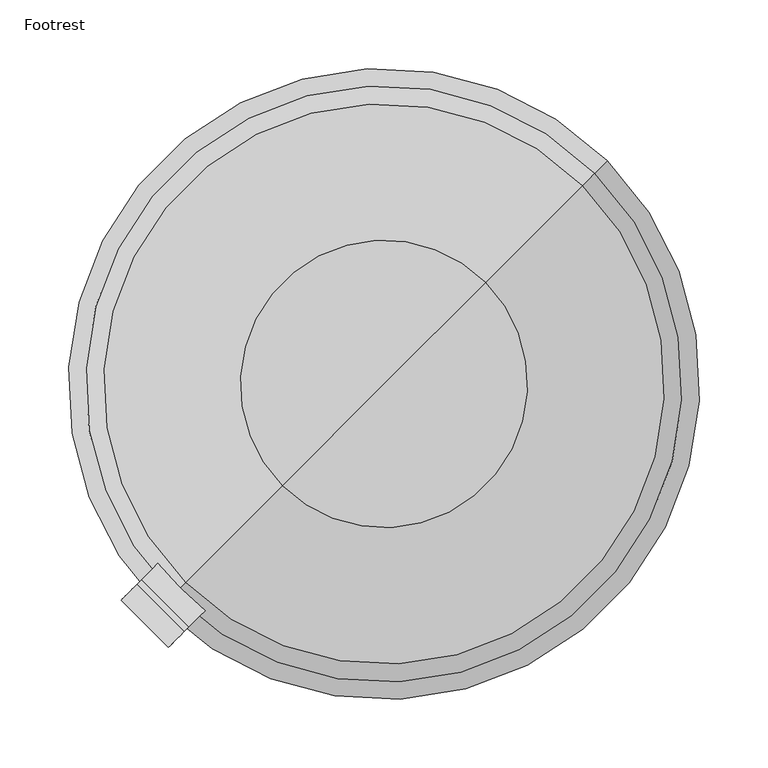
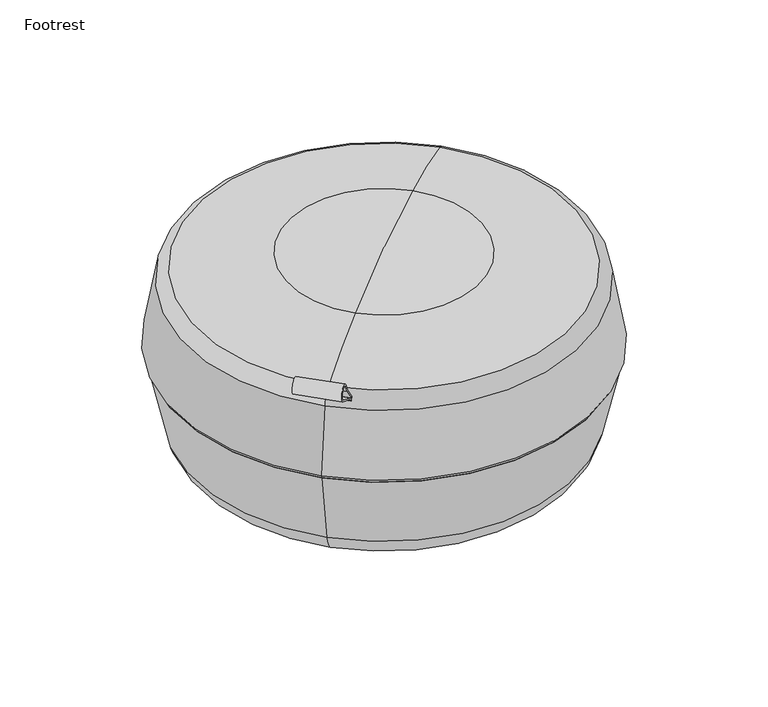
"""IFC4 building model written with IfcOpenShell, lengths in millimetres: furniture geometry, Steelcase EMEA - Seating - Brody - Footrest : Footrest."""

from ifc_helpers import new_model, si_unit, point, frame, frame_2d, origin, place, context, project, spatial, polyline, circle_curve, ellipse_curve, trimmed, segment, composite_curve, outline, extrude, source, transform, mapped, element, save
from ifc_brep_helpers import plane_surface, revolved_surface, advanced_brep


def footrest_3d02c9c8(model_context):
    return source(origin(), model_context, "Body", "SolidModel", [
        extrude(outline(composite_curve([segment(polyline([(-41.2581393, 0.0), (0.0, 0.0), (0.0, -1.7228867), (-41.6637416, -1.7228867)]), True, "CONTINUOUS"), segment(trimmed(circle_curve(frame_2d((-41.6637415, -31.9791089)), 30.2562221), [point((-41.6637416, -1.7228867))], [point((-50.8773567, -3.1598744))], True, "CARTESIAN"), True, "CONTINUOUS"), segment(trimmed(circle_curve(frame_2d((-53.4550869, 4.9029984)), 8.4649046), [point((-50.8773567, -3.1598744))], [point((-50.5834577, 12.8659347))], False, "CARTESIAN"), True, "CONTINUOUS"), segment(trimmed(circle_curve(frame_2d((270.8729851, 904.2544335)), 947.5799177), [point((-50.5834577, 12.8659347))], [point((-22.6207098, 3.2721077))], True, "CARTESIAN"), True, "CONTINUOUS"), segment(polyline([(-22.6207098, 3.2721077), (0.5402369, 1.6525365), (0.4246803, 0.0), (-23.0477523, 1.6413524)]), True, "CONTINUOUS"), segment(trimmed(circle_curve(frame_2d((65.0243005, 310.0180828)), 320.7068667), [point((-23.0477523, 1.6413524))], [point((-51.03469, 11.0478417))], False, "CARTESIAN"), True, "CONTINUOUS"), segment(trimmed(circle_curve(frame_2d((-53.4851922, 4.7352998)), 6.7714952), [point((-51.03469, 11.0478417))], [point((-51.2907104, -1.670744))], True, "CARTESIAN"), True, "CONTINUOUS"), segment(trimmed(circle_curve(frame_2d((-41.2581393, -30.957425)), 30.957425), [point((-51.2907104, -1.670744))], [point((-41.2581393, 0.0))], False, "CARTESIAN"), True, "CONTINUOUS")], self_intersect=False)), frame((-123.4078513, -158.0879529, 210.5511622), z_axis=(-0.707106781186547, 0.707106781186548, 0.0), x_axis=(0.46390378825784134, 0.4639037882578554, -0.7547095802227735)), (0.0, 0.0, 1.0), 48.4393618),
        advanced_brep(
        [(0.0, 0.0, 138.2348903), (160.8119854, 160.8119854, 138.2348903), (-160.8119854, -160.8119854, 138.2348903), (-87.4545809, -87.4545809, 12.9992345), (87.4545809, 87.4545809, 12.9992345), (0.0, 0.0, 0.0), (-134.799359, -134.799359, 33.3773233), (134.799359, 134.799359, 33.3773233), (-147.5078152, -147.5078152, 56.7384407), (147.5078152, 147.5078152, 56.7384407)],
        [
            (0, 1),
            (1, 2, circle_curve(frame((0.0, 0.0, 138.2348903), z_axis=(0.0, 0.0, 1.0), x_axis=(0.7071067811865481, 0.707106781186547, 0.0)), 227.4224908)),
            (2, 0),
            (2, 1, circle_curve(frame((0.0, 0.0, 138.2348903), z_axis=(0.0, 0.0, 1.0), x_axis=(0.7071067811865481, 0.707106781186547, 0.0)), 227.4224908)),
            (3, 4, circle_curve(frame((0.0, 0.0, 12.9992345), z_axis=(0.0, 0.0, -1.0), x_axis=(0.7071067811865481, 0.707106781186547, 0.0)), 123.6794545)),
            (4, 5),
            (5, 3),
            (4, 3, circle_curve(frame((0.0, 0.0, 12.9992345), z_axis=(0.0, 0.0, -1.0), x_axis=(0.7071067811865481, 0.707106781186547, 0.0)), 123.6794545)),
            (6, 7, circle_curve(frame((0.0, 0.0, 33.3773233), z_axis=(0.0, 0.0, -1.0), x_axis=(0.7071067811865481, 0.707106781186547, 0.0)), 190.6350817)),
            (7, 4, circle_curve(frame((73.81058, 73.81058, 196.583951), z_axis=(-0.707106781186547, 0.7071067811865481, 0.0), x_axis=(-0.7071067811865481, -0.707106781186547, 0.0)), 184.5959524)),
            (3, 6, circle_curve(frame((-73.81058, -73.81058, 196.583951), z_axis=(-0.7071067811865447, 0.7071067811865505, 0.0), x_axis=(0.7071067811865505, 0.7071067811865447, 0.0)), 184.5959524)),
            (7, 6, circle_curve(frame((0.0, 0.0, 33.3773233), z_axis=(0.0, 0.0, -1.0), x_axis=(0.7071067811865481, 0.707106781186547, 0.0)), 190.6350817)),
            (8, 9, circle_curve(frame((0.0, 0.0, 56.7384407), z_axis=(0.0, 0.0, -1.0), x_axis=(0.7071067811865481, 0.707106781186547, 0.0)), 208.6075529)),
            (9, 7, circle_curve(frame((123.0903879, 123.0903879, 64.7106557), z_axis=(-0.707106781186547, 0.7071067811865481, 0.0), x_axis=(-0.7071067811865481, -0.707106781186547, 0.0)), 35.4397761)),
            (6, 8, circle_curve(frame((-123.0903879, -123.0903879, 64.7106557), z_axis=(-0.7071067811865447, 0.7071067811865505, 0.0), x_axis=(0.7071067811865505, 0.7071067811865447, 0.0)), 35.4397761)),
            (9, 8, circle_curve(frame((0.0, 0.0, 56.7384407), z_axis=(0.0, 0.0, -1.0), x_axis=(0.7071067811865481, 0.707106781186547, 0.0)), 208.6075529)),
            (1, 9),
            (8, 2),
        ],
        [
            plane_surface(frame((0.0, 0.0, 138.2348903), z_axis=(0.0, 0.0, 1.0000000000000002), x_axis=(0.7071067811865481, 0.707106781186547, 0.0))),
            revolved_surface(polyline([(0.0, 0.0, 0.0), (87.4545809, 87.4545809, 12.9992345)]), (0.0, 0.0, -30.0401097), (0.0, 0.0, 1.0)),
            revolved_surface(trimmed(ellipse_curve(frame((73.81058, 73.81058, 196.583951), z_axis=(0.707106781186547, -0.7071067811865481, 0.0), x_axis=(-0.7071067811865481, -0.707106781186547, 0.0)), 184.5959524, 184.5959524), [point((87.4545809, 87.4545809, 12.9992345))], [point((134.799359, 134.799359, 33.3773233))], True, "CARTESIAN"), (0.0, 0.0, -30.0401097), (0.0, 0.0, 1.0)),
            revolved_surface(trimmed(ellipse_curve(frame((123.0903879, 123.0903879, 64.7106557), z_axis=(0.707106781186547, -0.7071067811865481, 0.0), x_axis=(-0.7071067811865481, -0.707106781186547, 0.0)), 35.4397761, 35.4397761), [point((134.799359, 134.799359, 33.3773233))], [point((147.5078152, 147.5078152, 56.7384407))], True, "CARTESIAN"), (0.0, 0.0, -30.0401097), (0.0, 0.0, 1.0)),
            revolved_surface(polyline([(147.5078152, 147.5078152, 56.7384407), (160.8119854, 160.8119854, 138.2348903)]), (0.0, 0.0, -30.0401097), (0.0, 0.0, 1.0)),
        ],
        [
            (0, [[1, 2, 3]]),
            (0, [[-3, 4, -1]]),
            (1, [[5, 6, 7]]),
            (1, [[8, -7, -6]]),
            (2, [[9, 10, -5, 11]]),
            (2, [[12, -11, -8, -10]]),
            (3, [[13, 14, -9, 15]]),
            (3, [[16, -15, -12, -14]]),
            (4, [[-2, 17, -13, 18]]),
            (4, [[-4, -18, -16, -17]]),
        ],
    ),
        advanced_brep(
        [(-160.8119854, -160.8119854, 138.2348903), (160.8119854, 160.8119854, 138.2348903), (0.0, 0.0, 138.2348903), (-162.3474561, -162.3474561, 141.9960101), (162.3474561, 162.3474561, 141.9960101), (-153.3643028, -153.3643028, 214.0445262), (153.3643028, 153.3643028, 214.0445262), (-73.9343548, -73.9343548, 245.3815987), (73.9343548, 73.9343548, 245.3815987), (144.1817407, 144.1817407, 228.4242147), (-144.1817407, -144.1817407, 228.4242147), (0.0, 0.0, 251.8549411)],
        [
            (0, 1, circle_curve(frame((0.0, 0.0, 138.2348903), z_axis=(0.0, 0.0, -1.0), x_axis=(0.7071067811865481, 0.707106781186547, 0.0)), 227.4224908)),
            (1, 2),
            (2, 0),
            (1, 0, circle_curve(frame((0.0, 0.0, 138.2348903), z_axis=(0.0, 0.0, -1.0), x_axis=(0.7071067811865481, 0.707106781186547, 0.0)), 227.4224908)),
            (3, 4, circle_curve(frame((0.0, 0.0, 141.9960101), z_axis=(0.0, 0.0, -1.0), x_axis=(0.7071067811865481, 0.707106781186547, 0.0)), 229.5939743)),
            (4, 1),
            (0, 3),
            (4, 3, circle_curve(frame((0.0, 0.0, 141.9960101), z_axis=(0.0, 0.0, -1.0), x_axis=(0.7071067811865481, 0.707106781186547, 0.0)), 229.5939743)),
            (5, 6, circle_curve(frame((0.0, 0.0, 214.0445262), z_axis=(0.0, 0.0, -1.0), x_axis=(0.7071067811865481, 0.707106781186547, 0.0)), 216.889877)),
            (6, 4),
            (3, 5),
            (6, 5, circle_curve(frame((0.0, 0.0, 214.0445262), z_axis=(0.0, 0.0, -1.0), x_axis=(0.7071067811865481, 0.707106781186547, 0.0)), 216.889877)),
            (7, 8, circle_curve(frame((0.0, 0.0, 245.3815987), z_axis=(0.0, 0.0, -1.0), x_axis=(0.7071067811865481, 0.707106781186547, 0.0)), 104.5589673)),
            (8, 9, circle_curve(frame((53.3619061, 53.3619061, -224.5489716), z_axis=(-0.707106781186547, 0.7071067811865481, 0.0), x_axis=(-0.7071067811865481, -0.707106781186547, 0.0)), 470.8303221)),
            (9, 10, circle_curve(frame((0.0, 0.0, 228.4242147), z_axis=(0.0, 0.0, 1.0), x_axis=(0.7071067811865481, 0.707106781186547, 0.0)), 203.9037731)),
            (10, 7, circle_curve(frame((-53.3619061, -53.3619061, -224.5489716), z_axis=(-0.7071067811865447, 0.7071067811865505, 0.0), x_axis=(0.7071067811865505, 0.7071067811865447, 0.0)), 470.8303221)),
            (8, 7, circle_curve(frame((0.0, 0.0, 245.3815987), z_axis=(0.0, 0.0, -1.0), x_axis=(0.7071067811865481, 0.707106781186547, 0.0)), 104.5589673)),
            (10, 9, circle_curve(frame((0.0, 0.0, 228.4242147), z_axis=(0.0, 0.0, 1.0), x_axis=(0.7071067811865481, 0.707106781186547, 0.0)), 203.9037731)),
            (11, 8),
            (7, 11),
            (9, 6, circle_curve(frame((140.6636631, 140.6636631, 210.8774438), z_axis=(-0.707106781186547, 0.7071067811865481, 0.0), x_axis=(-0.7071067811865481, -0.707106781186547, 0.0)), 18.2385007)),
            (5, 10, circle_curve(frame((-140.6636631, -140.6636631, 210.8774438), z_axis=(-0.7071067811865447, 0.7071067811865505, 0.0), x_axis=(0.7071067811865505, 0.7071067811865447, 0.0)), 18.2385007)),
        ],
        [
            plane_surface(frame((0.0, 0.0, 138.2348903), z_axis=(0.0, 0.0, -1.0000000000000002), x_axis=(0.7071067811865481, 0.707106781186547, 0.0))),
            revolved_surface(polyline([(160.8119854, 160.8119854, 138.2348903), (162.3474561, 162.3474561, 141.9960101)]), (0.0, 0.0, 309.6848903), (0.0, 0.0, 1.0)),
            revolved_surface(polyline([(162.3474561, 162.3474561, 141.9960101), (153.3643028, 153.3643028, 214.0445262)]), (0.0, 0.0, 309.6848903), (0.0, 0.0, 1.0)),
            revolved_surface(trimmed(ellipse_curve(frame((53.3619061, 53.3619061, -224.5489716), z_axis=(0.707106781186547, -0.7071067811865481, 0.0), x_axis=(-0.7071067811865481, -0.707106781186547, 0.0)), 470.8303221, 470.8303221), [point((144.1817407, 144.1817407, 228.4242147))], [point((73.9343548, 73.9343548, 245.3815987))], True, "CARTESIAN"), (0.0, 0.0, 309.6848903), (0.0, 0.0, 1.0)),
            revolved_surface(polyline([(73.9343548, 73.9343548, 245.3815987), (0.0, 0.0, 251.8549411)]), (0.0, 0.0, 309.6848903), (0.0, 0.0, 1.0)),
            revolved_surface(trimmed(ellipse_curve(frame((140.6636631, 140.6636631, 210.8774438), z_axis=(0.707106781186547, -0.7071067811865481, 0.0), x_axis=(-0.7071067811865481, -0.707106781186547, 0.0)), 18.2385007, 18.2385007), [point((153.3643028, 153.3643028, 214.0445262))], [point((144.1817407, 144.1817407, 228.4242147))], True, "CARTESIAN"), (0.0, 0.0, 309.6848903), (0.0, 0.0, 1.0)),
        ],
        [
            (0, [[1, 2, 3]]),
            (0, [[4, -3, -2]]),
            (1, [[5, 6, -1, 7]]),
            (1, [[8, -7, -4, -6]]),
            (2, [[9, 10, -5, 11]]),
            (2, [[12, -11, -8, -10]]),
            (3, [[13, 14, 15, 16]]),
            (3, [[17, -16, 18, -14]]),
            (4, [[19, -13, 20]]),
            (4, [[-20, -17, -19]]),
            (5, [[-15, 21, -9, 22]]),
            (5, [[-18, -22, -12, -21]]),
        ],
    ),
    ])


if __name__ == "__main__":
    model = new_model("IFC4")
    model_context = context("Model", 3, world=origin())
    ifc_project = project(units=[si_unit("LENGTHUNIT", "METRE", prefix="MILLI")], contexts=[model_context])
    site = spatial("IfcSite", under=ifc_project)
    building = spatial("IfcBuilding", under=site)
    placement = place(None, origin())
    footrest_shape = footrest_3d02c9c8(model_context)
    element("IfcFurniture", 1, ObjectType="Steelcase EMEA - Seating - Brody - Footrest : Footrest", at=placement, inside=building, context=model_context, shape_type="MappedRepresentation", body=[
        mapped(footrest_shape, transform((0.0, 0.0, 0.0), x_axis=(1.0, 0.0, 0.0), y_axis=(0.0, 1.0, 0.0), z_axis=(0.0, 0.0, 1.0))),
    ])
    save(model, "model.ifc")
